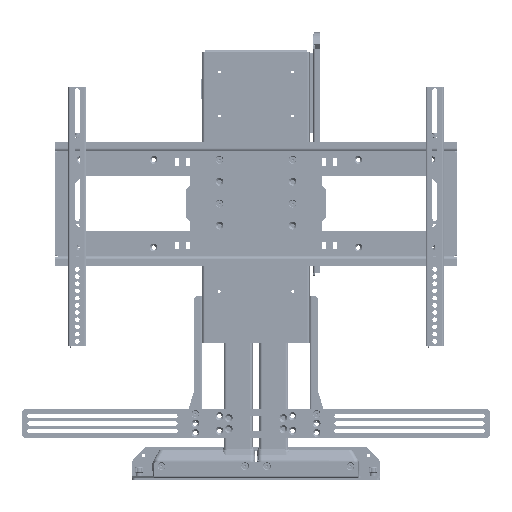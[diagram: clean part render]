
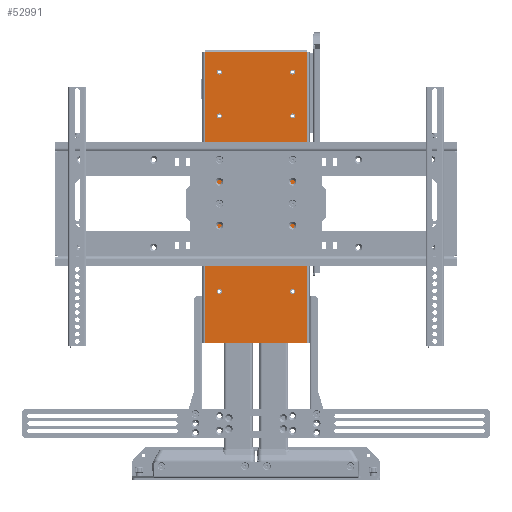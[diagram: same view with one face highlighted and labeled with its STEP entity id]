
A CAD part, front view. The second image highlights one B-rep face of the part: STEP entity #52991.
In plain terms, the highlighted planar face has unit normal (0, -1, 0) as drawn and (0, 0, 1) by its records, which use the part's own axes.
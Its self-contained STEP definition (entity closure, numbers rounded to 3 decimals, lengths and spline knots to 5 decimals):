
#3765=CIRCLE('',#61151,0.00437);
#3767=CIRCLE('',#61154,0.00437);
#3769=CIRCLE('',#61157,0.00437);
#3771=CIRCLE('',#61160,0.00437);
#3773=CIRCLE('',#61163,0.00437);
#3775=CIRCLE('',#61166,0.00437);
#3777=CIRCLE('',#61169,0.00437);
#3779=CIRCLE('',#61172,0.00437);
#3781=CIRCLE('',#61175,0.00437);
#3783=CIRCLE('',#61178,0.00437);
#3785=CIRCLE('',#61181,0.00437);
#3787=CIRCLE('',#61184,0.00437);
#8689=LINE('',#93433,#13359);
#8705=LINE('',#93477,#13375);
#8708=LINE('',#93485,#13378);
#8709=LINE('',#93486,#13379);
#13359=VECTOR('',#74875,1.);
#13375=VECTOR('',#74921,1.);
#13378=VECTOR('',#74930,1.);
#13379=VECTOR('',#74931,1.);
#26531=ORIENTED_EDGE('',*,*,#34957,.T.);
#26532=ORIENTED_EDGE('',*,*,#34929,.T.);
#26533=ORIENTED_EDGE('',*,*,#34958,.F.);
#26534=ORIENTED_EDGE('',*,*,#34953,.T.);
#26535=ORIENTED_EDGE('',*,*,#34899,.F.);
#26536=ORIENTED_EDGE('',*,*,#34897,.F.);
#26537=ORIENTED_EDGE('',*,*,#34895,.F.);
#26538=ORIENTED_EDGE('',*,*,#34893,.F.);
#26539=ORIENTED_EDGE('',*,*,#34891,.F.);
#26540=ORIENTED_EDGE('',*,*,#34889,.F.);
#26541=ORIENTED_EDGE('',*,*,#34887,.F.);
#26542=ORIENTED_EDGE('',*,*,#34885,.F.);
#26543=ORIENTED_EDGE('',*,*,#34883,.F.);
#26544=ORIENTED_EDGE('',*,*,#34881,.F.);
#26545=ORIENTED_EDGE('',*,*,#34879,.F.);
#26546=ORIENTED_EDGE('',*,*,#34877,.F.);
#34877=EDGE_CURVE('',#40077,#40077,#3765,.T.);
#34879=EDGE_CURVE('',#40079,#40079,#3767,.T.);
#34881=EDGE_CURVE('',#40081,#40081,#3769,.T.);
#34883=EDGE_CURVE('',#40083,#40083,#3771,.T.);
#34885=EDGE_CURVE('',#40085,#40085,#3773,.T.);
#34887=EDGE_CURVE('',#40087,#40087,#3775,.T.);
#34889=EDGE_CURVE('',#40089,#40089,#3777,.T.);
#34891=EDGE_CURVE('',#40091,#40091,#3779,.T.);
#34893=EDGE_CURVE('',#40093,#40093,#3781,.T.);
#34895=EDGE_CURVE('',#40095,#40095,#3783,.T.);
#34897=EDGE_CURVE('',#40097,#40097,#3785,.T.);
#34899=EDGE_CURVE('',#40099,#40099,#3787,.T.);
#34929=EDGE_CURVE('',#40121,#40122,#8689,.T.);
#34953=EDGE_CURVE('',#40134,#40133,#8705,.T.);
#34957=EDGE_CURVE('',#40133,#40121,#8708,.T.);
#34958=EDGE_CURVE('',#40134,#40122,#8709,.T.);
#40077=VERTEX_POINT('',#93317);
#40079=VERTEX_POINT('',#93322);
#40081=VERTEX_POINT('',#93327);
#40083=VERTEX_POINT('',#93332);
#40085=VERTEX_POINT('',#93337);
#40087=VERTEX_POINT('',#93342);
#40089=VERTEX_POINT('',#93347);
#40091=VERTEX_POINT('',#93352);
#40093=VERTEX_POINT('',#93357);
#40095=VERTEX_POINT('',#93362);
#40097=VERTEX_POINT('',#93367);
#40099=VERTEX_POINT('',#93372);
#40121=VERTEX_POINT('',#93434);
#40122=VERTEX_POINT('',#93435);
#40133=VERTEX_POINT('',#93476);
#40134=VERTEX_POINT('',#93478);
#44339=EDGE_LOOP('',(#26531,#26532,#26533,#26534));
#44340=EDGE_LOOP('',(#26535));
#44341=EDGE_LOOP('',(#26536));
#44342=EDGE_LOOP('',(#26537));
#44343=EDGE_LOOP('',(#26538));
#44344=EDGE_LOOP('',(#26539));
#44345=EDGE_LOOP('',(#26540));
#44346=EDGE_LOOP('',(#26541));
#44347=EDGE_LOOP('',(#26542));
#44348=EDGE_LOOP('',(#26543));
#44349=EDGE_LOOP('',(#26544));
#44350=EDGE_LOOP('',(#26545));
#44351=EDGE_LOOP('',(#26546));
#48179=FACE_BOUND('',#44339,.T.);
#48180=FACE_BOUND('',#44340,.T.);
#48181=FACE_BOUND('',#44341,.T.);
#48182=FACE_BOUND('',#44342,.T.);
#48183=FACE_BOUND('',#44343,.T.);
#48184=FACE_BOUND('',#44344,.T.);
#48185=FACE_BOUND('',#44345,.T.);
#48186=FACE_BOUND('',#44346,.T.);
#48187=FACE_BOUND('',#44347,.T.);
#48188=FACE_BOUND('',#44348,.T.);
#48189=FACE_BOUND('',#44349,.T.);
#48190=FACE_BOUND('',#44350,.T.);
#48191=FACE_BOUND('',#44351,.T.);
#50235=PLANE('',#61223);
#52991=ADVANCED_FACE('',(#48179,#48180,#48181,#48182,#48183,#48184,#48185,
#48186,#48187,#48188,#48189,#48190,#48191),#50235,.T.);
#61151=AXIS2_PLACEMENT_3D('',#93316,#74747,#74748);
#61154=AXIS2_PLACEMENT_3D('',#93321,#74753,#74754);
#61157=AXIS2_PLACEMENT_3D('',#93326,#74759,#74760);
#61160=AXIS2_PLACEMENT_3D('',#93331,#74765,#74766);
#61163=AXIS2_PLACEMENT_3D('',#93336,#74771,#74772);
#61166=AXIS2_PLACEMENT_3D('',#93341,#74777,#74778);
#61169=AXIS2_PLACEMENT_3D('',#93346,#74783,#74784);
#61172=AXIS2_PLACEMENT_3D('',#93351,#74789,#74790);
#61175=AXIS2_PLACEMENT_3D('',#93356,#74795,#74796);
#61178=AXIS2_PLACEMENT_3D('',#93361,#74801,#74802);
#61181=AXIS2_PLACEMENT_3D('',#93366,#74807,#74808);
#61184=AXIS2_PLACEMENT_3D('',#93371,#74813,#74814);
#61223=AXIS2_PLACEMENT_3D('',#93484,#74928,#74929);
#74747=DIRECTION('',(0.,0.,1.));
#74748=DIRECTION('',(1.,0.,0.));
#74753=DIRECTION('',(0.,0.,1.));
#74754=DIRECTION('',(1.,0.,0.));
#74759=DIRECTION('',(0.,0.,1.));
#74760=DIRECTION('',(1.,0.,0.));
#74765=DIRECTION('',(0.,0.,1.));
#74766=DIRECTION('',(1.,0.,0.));
#74771=DIRECTION('',(0.,0.,1.));
#74772=DIRECTION('',(1.,0.,0.));
#74777=DIRECTION('',(0.,0.,1.));
#74778=DIRECTION('',(1.,0.,0.));
#74783=DIRECTION('',(0.,0.,1.));
#74784=DIRECTION('',(1.,0.,0.));
#74789=DIRECTION('',(0.,0.,1.));
#74790=DIRECTION('',(1.,0.,0.));
#74795=DIRECTION('',(0.,0.,1.));
#74796=DIRECTION('',(1.,0.,0.));
#74801=DIRECTION('',(0.,0.,1.));
#74802=DIRECTION('',(1.,0.,0.));
#74807=DIRECTION('',(0.,0.,1.));
#74808=DIRECTION('',(1.,0.,0.));
#74813=DIRECTION('',(0.,0.,1.));
#74814=DIRECTION('',(1.,0.,0.));
#74875=DIRECTION('',(-1.,0.,0.));
#74921=DIRECTION('',(1.,0.,0.));
#74928=DIRECTION('',(0.,0.,1.));
#74929=DIRECTION('',(1.,0.,0.));
#74930=DIRECTION('',(0.,1.,0.));
#74931=DIRECTION('',(0.,1.,0.));
#93316=CARTESIAN_POINT('',(-0.0635,-0.2667,0.127));
#93317=CARTESIAN_POINT('',(-0.05913,-0.2667,0.127));
#93321=CARTESIAN_POINT('',(0.0635,-0.3429,0.127));
#93322=CARTESIAN_POINT('',(0.06787,-0.3429,0.127));
#93326=CARTESIAN_POINT('',(-0.0635,-0.3429,0.127));
#93327=CARTESIAN_POINT('',(-0.05913,-0.3429,0.127));
#93331=CARTESIAN_POINT('',(0.0635,-0.4191,0.127));
#93332=CARTESIAN_POINT('',(0.06787,-0.4191,0.127));
#93336=CARTESIAN_POINT('',(-0.0635,-0.1143,0.127));
#93337=CARTESIAN_POINT('',(-0.05913,-0.1143,0.127));
#93341=CARTESIAN_POINT('',(0.0635,-0.1905,0.127));
#93342=CARTESIAN_POINT('',(0.06787,-0.1905,0.127));
#93346=CARTESIAN_POINT('',(-0.0635,-0.1905,0.127));
#93347=CARTESIAN_POINT('',(-0.05913,-0.1905,0.127));
#93351=CARTESIAN_POINT('',(0.0635,-0.2667,0.127));
#93352=CARTESIAN_POINT('',(0.06787,-0.2667,0.127));
#93356=CARTESIAN_POINT('',(-0.0635,-0.4191,0.127));
#93357=CARTESIAN_POINT('',(-0.05913,-0.4191,0.127));
#93361=CARTESIAN_POINT('',(0.0635,-0.1143,0.127));
#93362=CARTESIAN_POINT('',(0.06787,-0.1143,0.127));
#93366=CARTESIAN_POINT('',(0.0635,-0.0381,0.127));
#93367=CARTESIAN_POINT('',(0.06787,-0.0381,0.127));
#93371=CARTESIAN_POINT('',(-0.0635,-0.0381,0.127));
#93372=CARTESIAN_POINT('',(-0.05913,-0.0381,0.127));
#93433=CARTESIAN_POINT('',(0.089,-0.00397,0.127));
#93434=CARTESIAN_POINT('',(0.089,-0.00397,0.127));
#93435=CARTESIAN_POINT('',(-0.089,-0.00397,0.127));
#93476=CARTESIAN_POINT('',(0.089,-0.508,0.127));
#93477=CARTESIAN_POINT('',(-0.09296,-0.508,0.127));
#93478=CARTESIAN_POINT('',(-0.089,-0.508,0.127));
#93484=CARTESIAN_POINT('',(-0.09296,-0.508,0.127));
#93485=CARTESIAN_POINT('',(0.089,-0.508,0.127));
#93486=CARTESIAN_POINT('',(-0.089,-0.508,0.127));
